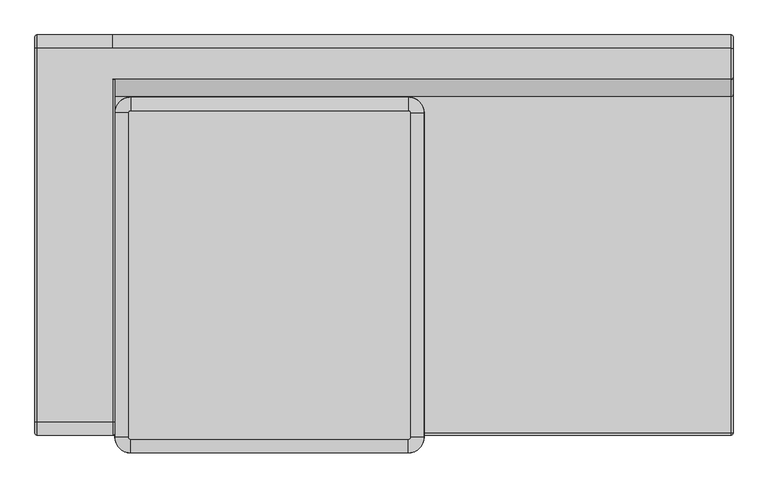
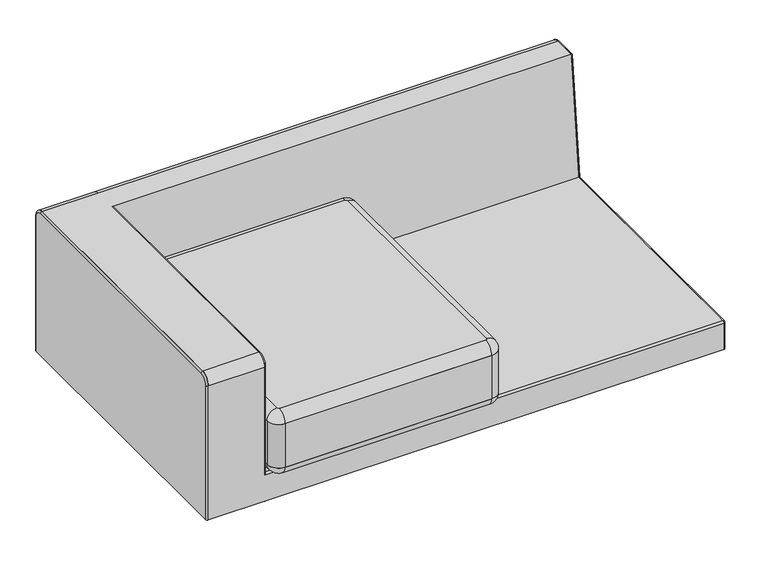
"""IFC4 building model written with IfcOpenShell, lengths in millimetres: furniture geometry, Sofa_Bensen_Neo_NEO25LIT : Sofa_Bensen_Neo_NEO25LIT."""

from ifc_helpers import new_model, si_unit, point, frame, frame_2d, origin, place, context, project, spatial, polyline, circle_curve, ellipse_curve, trimmed, segment, composite_curve, outline, extrude, source, transform, mapped, element, save
from ifc_brep_helpers import plane_surface, cylinder_surface, revolved_surface, advanced_brep


def furniture_0ab977c7(model_context):
    return source(origin(), model_context, "Body", "SolidModel", [
        advanced_brep(
        [(-35.0, -490.001275, 289.4004127), (0.0, -455.001275, 289.4004127), (0.0, 274.998725, 289.4004127), (-35.0, 309.998725, 289.4004127), (-660.0, 309.998725, 289.4004127), (-695.0, 274.998725, 289.4004127), (-695.0, -455.001275, 289.4004127), (-660.0, -490.001275, 289.4004127), (-30.0, -455.001275, 259.4004127), (-35.0, -460.001275, 259.4004127), (-660.0, -460.001275, 259.4004127), (-665.0, -455.001275, 259.4004127), (-665.0, 274.998725, 259.4004127), (-660.0, 279.998725, 259.4004127), (-35.0, 279.998725, 259.4004127), (-30.0, 274.998725, 259.4004127)],
        [
            (0, 1, circle_curve(frame((-35.0, -455.001275, 289.4004127), z_axis=(0.0, 0.0, 1.0), x_axis=(1.0, 0.0, 0.0)), 35.0)),
            (1, 2),
            (2, 3, circle_curve(frame((-35.0, 274.998725, 289.4004127), z_axis=(0.0, 0.0, 1.0), x_axis=(0.0, 1.0, 0.0)), 35.0)),
            (3, 4),
            (4, 5, circle_curve(frame((-660.0, 274.998725, 289.4004127), z_axis=(0.0, 0.0, 1.0), x_axis=(-1.0, 0.0, 0.0)), 35.0)),
            (5, 6),
            (6, 7, circle_curve(frame((-660.0, -455.001275, 289.4004127), z_axis=(0.0, 0.0, 1.0), x_axis=(0.0, -1.0, 0.0)), 35.0)),
            (7, 0),
            (8, 9, circle_curve(frame((-35.0, -455.001275, 259.4004127), z_axis=(0.0, 0.0, -1.0), x_axis=(1.0, 0.0, 0.0)), 5.0)),
            (9, 10),
            (10, 11, circle_curve(frame((-660.0, -455.001275, 259.4004127), z_axis=(0.0, 0.0, -1.0), x_axis=(0.0, -1.0, 0.0)), 5.0)),
            (11, 12),
            (12, 13, circle_curve(frame((-660.0, 274.998725, 259.4004127), z_axis=(0.0, 0.0, -1.0), x_axis=(-1.0, 0.0, 0.0)), 5.0)),
            (13, 14),
            (14, 15, circle_curve(frame((-35.0, 274.998725, 259.4004127), z_axis=(0.0, 0.0, -1.0), x_axis=(0.0, 1.0, 0.0)), 5.0)),
            (15, 8),
            (8, 1, circle_curve(frame((-30.0, -455.001275, 289.4004127), z_axis=(0.0, -1.0, 0.0), x_axis=(1.0, 0.0, 0.0)), 30.0)),
            (0, 9, circle_curve(frame((-35.0, -460.001275, 289.4004127), z_axis=(1.0, 0.0, 0.0), x_axis=(0.0, -1.0, 0.0)), 30.0)),
            (7, 10, circle_curve(frame((-660.0, -460.001275, 289.4004127), z_axis=(1.0, 0.0, 0.0), x_axis=(0.0, -1.0, 0.0)), 30.0)),
            (6, 11, circle_curve(frame((-665.0, -455.001275, 289.4004127), z_axis=(0.0, -1.0, 0.0), x_axis=(-1.0, 0.0, 0.0)), 30.0)),
            (5, 12, circle_curve(frame((-665.0, 274.998725, 289.4004127), z_axis=(0.0, -1.0, 0.0), x_axis=(-1.0, 0.0, 0.0)), 30.0)),
            (4, 13, circle_curve(frame((-660.0, 279.998725, 289.4004127), z_axis=(-1.0, 0.0, 0.0), x_axis=(0.0, 1.0, 0.0)), 30.0)),
            (3, 14, circle_curve(frame((-35.0, 279.998725, 289.4004127), z_axis=(-1.0, 0.0, 0.0), x_axis=(0.0, 1.0, 0.0)), 30.0)),
            (2, 15, circle_curve(frame((-30.0, 274.998725, 289.4004127), z_axis=(0.0, 1.0, 0.0), x_axis=(1.0, 0.0, 0.0)), 30.0)),
        ],
        [
            plane_surface(frame((-35.0, 269.998725, 289.4004127), z_axis=(0.0, 0.0, 1.0), x_axis=(1.0, 0.0, 0.0))),
            plane_surface(frame((-35.0, 269.998725, 259.4004127), z_axis=(0.0, 0.0, -1.0), x_axis=(-1.0, 0.0, 0.0))),
            revolved_surface(trimmed(ellipse_curve(frame((-30.0, -455.001275, 289.4004127), z_axis=(0.0, 1.0, 0.0), x_axis=(1.0, 0.0, 0.0)), 30.0, 30.0), [point((0.0, -455.001275, 289.4004127))], [point((-30.0, -455.001275, 259.4004127))], True, "CARTESIAN"), (-35.0, -455.001275, 289.4004127), (0.0, 0.0, -1.0)),
            cylinder_surface(frame((-35.0, -460.001275, 289.4004127), z_axis=(1.0, 0.0, 0.0), x_axis=(0.0, -1.0, 0.0)), 30.0),
            revolved_surface(trimmed(ellipse_curve(frame((-660.0, -460.001275, 289.4004127), z_axis=(1.0, 0.0, 0.0), x_axis=(0.0, -1.0, 0.0)), 30.0, 30.0), [point((-660.0, -490.001275, 289.4004127))], [point((-660.0, -460.001275, 259.4004127))], True, "CARTESIAN"), (-660.0, -455.001275, 289.4004127), (0.0, 0.0, -1.0)),
            cylinder_surface(frame((-665.0, -455.001275, 289.4004127), z_axis=(0.0, -1.0, 0.0), x_axis=(-1.0, 0.0, 0.0)), 30.0),
            revolved_surface(trimmed(ellipse_curve(frame((-665.0, 274.998725, 289.4004127), z_axis=(0.0, -1.0, 0.0), x_axis=(-1.0, 0.0, 0.0)), 30.0, 30.0), [point((-695.0, 274.998725, 289.4004127))], [point((-665.0, 274.998725, 259.4004127))], True, "CARTESIAN"), (-660.0, 274.998725, 289.4004127), (0.0, 0.0, -1.0)),
            cylinder_surface(frame((-660.0, 279.998725, 289.4004127), z_axis=(-1.0, 0.0, 0.0), x_axis=(0.0, 1.0, 0.0)), 30.0),
            revolved_surface(trimmed(ellipse_curve(frame((-35.0, 279.998725, 289.4004127), z_axis=(-1.0, 0.0, 0.0), x_axis=(0.0, 1.0, 0.0)), 30.0, 30.0), [point((-35.0, 309.998725, 289.4004127))], [point((-35.0, 279.998725, 259.4004127))], True, "CARTESIAN"), (-35.0, 274.998725, 289.4004127), (0.0, 0.0, -1.0)),
            cylinder_surface(frame((-30.0, 274.998725, 289.4004127), z_axis=(0.0, 1.0, 0.0), x_axis=(1.0, 0.0, 0.0)), 30.0),
        ],
        [
            (0, [[1, 2, 3, 4, 5, 6, 7, 8]]),
            (1, [[9, 10, 11, 12, 13, 14, 15, 16]]),
            (2, [[17, -1, 18, -9]]),
            (3, [[-18, -8, 19, -10]]),
            (4, [[-19, -7, 20, -11]]),
            (5, [[-20, -6, 21, -12]]),
            (6, [[-21, -5, 22, -13]]),
            (7, [[-22, -4, 23, -14]]),
            (8, [[-23, -3, 24, -15]]),
            (9, [[-17, -16, -24, -2]]),
        ],
    ),
        advanced_brep(
        [(-35.0, -490.001275, 429.4004127), (0.0, -455.001275, 429.4004127), (-30.0, -455.001275, 459.4004127), (-35.0, -460.001275, 459.4004127), (-660.0, -460.001275, 459.4004127), (-660.0, -490.001275, 429.4004127), (-665.0, -455.001275, 459.4004127), (-695.0, -455.001275, 429.4004127), (-665.0, 274.998725, 459.4004127), (-695.0, 274.998725, 429.4004127), (-660.0, 279.998725, 459.4004127), (-660.0, 309.998725, 429.4004127), (-35.0, 279.998725, 459.4004127), (-35.0, 309.998725, 429.4004127), (-30.0, 274.998725, 459.4004127), (0.0, 274.998725, 429.4004127)],
        [
            (0, 1, circle_curve(frame((-35.0, -455.001275, 429.4004127), z_axis=(0.0, 0.0, 1.0), x_axis=(1.0, 0.0, 0.0)), 35.0)),
            (1, 2, circle_curve(frame((-30.0, -455.001275, 429.4004127), z_axis=(0.0, -1.0, 0.0), x_axis=(1.0, 0.0, 0.0)), 30.0)),
            (2, 3, circle_curve(frame((-35.0, -455.001275, 459.4004127), z_axis=(0.0, 0.0, -1.0), x_axis=(1.0, 0.0, 0.0)), 5.0)),
            (3, 0, circle_curve(frame((-35.0, -460.001275, 429.4004127), z_axis=(1.0, 0.0, 0.0), x_axis=(0.0, -1.0, 0.0)), 30.0)),
            (3, 4),
            (4, 5, circle_curve(frame((-660.0, -460.001275, 429.4004127), z_axis=(1.0, 0.0, 0.0), x_axis=(0.0, -1.0, 0.0)), 30.0)),
            (5, 0),
            (4, 6, circle_curve(frame((-660.0, -455.001275, 459.4004127), z_axis=(0.0, 0.0, -1.0), x_axis=(0.0, -1.0, 0.0)), 5.0)),
            (6, 7, circle_curve(frame((-665.0, -455.001275, 429.4004127), z_axis=(0.0, -1.0, 0.0), x_axis=(-1.0, 0.0, 0.0)), 30.0)),
            (7, 5, circle_curve(frame((-660.0, -455.001275, 429.4004127), z_axis=(0.0, 0.0, 1.0), x_axis=(0.0, -1.0, 0.0)), 35.0)),
            (6, 8),
            (8, 9, circle_curve(frame((-665.0, 274.998725, 429.4004127), z_axis=(0.0, -1.0, 0.0), x_axis=(-1.0, 0.0, 0.0)), 30.0)),
            (9, 7),
            (8, 10, circle_curve(frame((-660.0, 274.998725, 459.4004127), z_axis=(0.0, 0.0, -1.0), x_axis=(-1.0, 0.0, 0.0)), 5.0)),
            (10, 11, circle_curve(frame((-660.0, 279.998725, 429.4004127), z_axis=(-1.0, 0.0, 0.0), x_axis=(0.0, 1.0, 0.0)), 30.0)),
            (11, 9, circle_curve(frame((-660.0, 274.998725, 429.4004127), z_axis=(0.0, 0.0, 1.0), x_axis=(-1.0, 0.0, 0.0)), 35.0)),
            (10, 12),
            (12, 13, circle_curve(frame((-35.0, 279.998725, 429.4004127), z_axis=(-1.0, 0.0, 0.0), x_axis=(0.0, 1.0, 0.0)), 30.0)),
            (13, 11),
            (12, 14, circle_curve(frame((-35.0, 274.998725, 459.4004127), z_axis=(0.0, 0.0, -1.0), x_axis=(0.0, 1.0, 0.0)), 5.0)),
            (14, 15, circle_curve(frame((-30.0, 274.998725, 429.4004127), z_axis=(0.0, 1.0, 0.0), x_axis=(1.0, 0.0, 0.0)), 30.0)),
            (15, 13, circle_curve(frame((-35.0, 274.998725, 429.4004127), z_axis=(0.0, 0.0, 1.0), x_axis=(0.0, 1.0, 0.0)), 35.0)),
            (1, 15),
            (14, 2),
        ],
        [
            revolved_surface(trimmed(ellipse_curve(frame((-30.0, -455.001275, 429.4004127), z_axis=(0.0, 1.0, 0.0), x_axis=(1.0, 0.0, 0.0)), 30.0, 30.0), [point((-30.0, -455.001275, 459.4004127))], [point((0.0, -455.001275, 429.4004127))], True, "CARTESIAN"), (-35.0, -455.001275, 259.4004127), (0.0, 0.0, -1.0)),
            cylinder_surface(frame((-35.0, -460.001275, 429.4004127), z_axis=(1.0, 0.0, 0.0), x_axis=(0.0, -1.0, 0.0)), 30.0),
            revolved_surface(trimmed(ellipse_curve(frame((-660.0, -460.001275, 429.4004127), z_axis=(1.0, 0.0, 0.0), x_axis=(0.0, -1.0, 0.0)), 30.0, 30.0), [point((-660.0, -460.001275, 459.4004127))], [point((-660.0, -490.001275, 429.4004127))], True, "CARTESIAN"), (-660.0, -455.001275, 259.4004127), (0.0, 0.0, -1.0)),
            cylinder_surface(frame((-665.0, -455.001275, 429.4004127), z_axis=(0.0, -1.0, 0.0), x_axis=(-1.0, 0.0, 0.0)), 30.0),
            revolved_surface(trimmed(ellipse_curve(frame((-665.0, 274.998725, 429.4004127), z_axis=(0.0, -1.0, 0.0), x_axis=(-1.0, 0.0, 0.0)), 30.0, 30.0), [point((-665.0, 274.998725, 459.4004127))], [point((-695.0, 274.998725, 429.4004127))], True, "CARTESIAN"), (-660.0, 274.998725, 259.4004127), (0.0, 0.0, -1.0)),
            cylinder_surface(frame((-660.0, 279.998725, 429.4004127), z_axis=(-1.0, 0.0, 0.0), x_axis=(0.0, 1.0, 0.0)), 30.0),
            revolved_surface(trimmed(ellipse_curve(frame((-35.0, 279.998725, 429.4004127), z_axis=(-1.0, 0.0, 0.0), x_axis=(0.0, 1.0, 0.0)), 30.0, 30.0), [point((-35.0, 279.998725, 459.4004127))], [point((-35.0, 309.998725, 429.4004127))], True, "CARTESIAN"), (-35.0, 274.998725, 259.4004127), (0.0, 0.0, -1.0)),
            cylinder_surface(frame((-30.0, 274.998725, 429.4004127), z_axis=(0.0, 1.0, 0.0), x_axis=(1.0, 0.0, 0.0)), 30.0),
            plane_surface(frame((0.0, 274.998725, 429.4004127), z_axis=(0.0, 0.0, -1.0), x_axis=(0.0, -1.0, 0.0))),
            plane_surface(frame((-35.0, 269.998725, 459.4004127), z_axis=(0.0, 0.0, 1.0), x_axis=(1.0, 0.0, 0.0))),
        ],
        [
            (0, [[1, 2, 3, 4]]),
            (1, [[-4, 5, 6, 7]]),
            (2, [[-6, 8, 9, 10]]),
            (3, [[-9, 11, 12, 13]]),
            (4, [[-12, 14, 15, 16]]),
            (5, [[-15, 17, 18, 19]]),
            (6, [[-18, 20, 21, 22]]),
            (7, [[-2, 23, -21, 24]]),
            (8, [[-1, -7, -10, -13, -16, -19, -22, -23]]),
            (9, [[-3, -24, -20, -17, -14, -11, -8, -5]]),
        ],
    ),
        extrude(outline(composite_curve([segment(polyline([(0.0, 274.998725), (0.0, -455.001275)]), True, "CONTINUOUS"), segment(trimmed(circle_curve(frame_2d((-35.0, -455.001275)), 35.0), [point((0.0, -455.001275))], [point((-35.0, -490.001275))], False, "CARTESIAN"), True, "CONTINUOUS"), segment(polyline([(-35.0, -490.001275), (-660.0, -490.001275)]), True, "CONTINUOUS"), segment(trimmed(circle_curve(frame_2d((-660.0, -455.001275)), 35.0), [point((-660.0, -490.001275))], [point((-695.0, -455.001275))], False, "CARTESIAN"), True, "CONTINUOUS"), segment(polyline([(-695.0, -455.001275), (-695.0, 274.998725)]), True, "CONTINUOUS"), segment(trimmed(circle_curve(frame_2d((-660.0, 274.998725)), 35.0), [point((-695.0, 274.998725))], [point((-660.0, 309.998725))], False, "CARTESIAN"), True, "CONTINUOUS"), segment(polyline([(-660.0, 309.998725), (-35.0, 309.998725)]), True, "CONTINUOUS"), segment(trimmed(circle_curve(frame_2d((-35.0, 274.998725)), 35.0), [point((-35.0, 309.998725))], [point((0.0, 274.998725))], False, "CARTESIAN"), True, "CONTINUOUS")], self_intersect=False)), frame((0.0, 0.0, 289.4004127), z_axis=(0.0, 0.0, 1.0), x_axis=(1.0, 0.0, 0.0)), (0.0, 0.0, 1.0), 140.0),
        advanced_brep(
        [(690.0, 449.998725, 169.9987249), (690.0, 449.998725, 599.5427565), (690.0, 419.998725, 629.5427565), (690.0, 349.998725, 629.5427565), (690.0, 311.095197, 259.4004127), (690.0, -443.9987249, 259.4004127), (690.0, -449.9987249, 253.4004127), (690.0, -449.9987249, 170.0), (-699.9999999, 419.998725, 629.5427565), (-869.9999999, 419.998725, 629.5427565), (-869.9999999, -419.9987249, 629.5427565), (-699.9999999, -419.9987249, 629.5427565), (-699.9999999, 349.998725, 629.5427565), (-869.9999999, 449.998725, 170.0), (-869.9999999, 449.998725, 599.5427565), (-699.9999999, 449.998725, 599.5427565), (-869.9999999, -449.9987249, 169.9987249), (-699.9999999, 311.095197, 259.4004127), (-699.9999999, -449.9987249, 253.4004127), (-699.9999999, -449.9987249, 599.5427565), (-869.9999999, -449.9987249, 599.5427565), (-699.9999999, -443.9987249, 259.4004127)],
        [
            (0, 1),
            (1, 2, circle_curve(frame((690.0, 419.998725, 599.5427565), z_axis=(1.0, 0.0, 0.0), x_axis=(0.0, -1.0, 0.0)), 30.0)),
            (2, 3),
            (3, 4),
            (4, 5),
            (5, 6, circle_curve(frame((690.0, -443.9987249, 253.4004127), z_axis=(1.0, 0.0, 0.0), x_axis=(0.0, 0.0, 1.0)), 6.0)),
            (6, 7),
            (7, 0),
            (2, 8),
            (8, 9),
            (9, 10),
            (10, 11),
            (11, 12),
            (12, 3),
            (0, 13),
            (13, 14),
            (14, 15),
            (15, 1),
            (7, 16),
            (16, 13),
            (12, 17),
            (17, 4),
            (15, 8, circle_curve(frame((-699.9999999, 419.998725, 599.5427565), z_axis=(1.0, 0.0, 0.0), x_axis=(0.0, -1.0, 0.0)), 30.0)),
            (6, 18),
            (18, 19),
            (19, 20),
            (20, 16),
            (17, 21),
            (21, 5),
            (21, 18, circle_curve(frame((-699.9999999, -443.9987249, 253.4004127), z_axis=(1.0, 0.0, 0.0), x_axis=(0.0, 0.0, 1.0)), 6.0)),
            (11, 19, circle_curve(frame((-699.9999999, -419.9987249, 599.5427565), z_axis=(1.0, 0.0, 0.0), x_axis=(0.0, -1.0, 0.0)), 30.0)),
            (9, 14, circle_curve(frame((-869.9999999, 419.998725, 599.5427565), z_axis=(-1.0, 0.0, 0.0), x_axis=(0.0, -1.0, 0.0)), 30.0)),
            (20, 10, circle_curve(frame((-869.9999999, -419.9987249, 599.5427565), z_axis=(-1.0, 0.0, 0.0), x_axis=(0.0, -1.0, 0.0)), 30.0)),
        ],
        [
            plane_surface(frame((690.0, 449.998725, 629.5427565), z_axis=(1.0, 0.0, 0.0), x_axis=(0.0, -1.0, 0.0))),
            plane_surface(frame((-699.9999999, 349.998725, 629.5427565), z_axis=(0.0, 0.0, 1.0), x_axis=(1.0, 0.0, 0.0))),
            plane_surface(frame((-699.9999999, 449.998725, 599.5427565), z_axis=(0.0, 1.0, 0.0), x_axis=(1.0, 0.0, 0.0))),
            plane_surface(frame((-699.9999999, 449.998725, 169.9987249), z_axis=(0.0, 0.0, -1.0), x_axis=(1.0, 0.0, 0.0))),
            plane_surface(frame((-699.9999999, 301.698701, 169.9987249), z_axis=(0.0, -0.9945218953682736, 0.10452846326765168), x_axis=(1.0, 0.0, 0.0))),
            cylinder_surface(frame((690.0, 419.998725, 599.5427565), z_axis=(-1.0, 0.0, 0.0), x_axis=(0.0, -1.0, 0.0)), 30.0),
            plane_surface(frame((690.0, -449.9987249, 253.4004127), z_axis=(0.0, -1.0, 0.0), x_axis=(-1.0, 0.0, 0.0))),
            plane_surface(frame((690.0, 311.095197, 259.4004127), z_axis=(0.0, 0.0, 1.0), x_axis=(-1.0, 0.0, 0.0))),
            cylinder_surface(frame((-699.9999999, -443.9987249, 253.4004127), z_axis=(1.0, 0.0, 0.0), x_axis=(0.0, 0.0, 1.0)), 6.0),
            plane_surface(frame((-699.9999999, -449.9987249, 599.5427565), z_axis=(1.0, 0.0, 0.0), x_axis=(0.0, 0.0, -1.0))),
            plane_surface(frame((-869.9999999, -449.9987249, 599.5427565), z_axis=(-1.0, 0.0, 0.0), x_axis=(0.0, 0.0, 1.0))),
            cylinder_surface(frame((-869.9999999, -419.9987249, 599.5427565), z_axis=(1.0, 0.0, 0.0), x_axis=(0.0, -1.0, 0.0)), 30.0),
            cylinder_surface(frame((-869.9999999, 419.998725, 599.5427565), z_axis=(1.0, 0.0, 0.0), x_axis=(0.0, -1.0, 0.0)), 30.0),
        ],
        [
            (0, [[1, 2, 3, 4, 5, 6, 7, 8]]),
            (1, [[-3, 9, 10, 11, 12, 13, 14]]),
            (2, [[-1, 15, 16, 17, 18]]),
            (3, [[-15, -8, 19, 20]]),
            (4, [[-14, 21, 22, -4]]),
            (5, [[-2, -18, 23, -9]]),
            (6, [[-19, -7, 24, 25, 26, 27]]),
            (7, [[-5, -22, 28, 29]]),
            (8, [[-6, -29, 30, -24]]),
            (9, [[31, -25, -30, -28, -21, -13]]),
            (10, [[-11, 32, -16, -20, -27, 33]]),
            (11, [[-31, -12, -33, -26]]),
            (12, [[-32, -10, -23, -17]]),
        ],
    ),
        advanced_brep(
        [(-874.9999999, 444.998725, 170.0), (-869.9999999, 449.998725, 170.0), (-869.9999999, -449.9987249, 170.0), (-874.9999999, -444.9987249, 170.0), (-869.9999999, 419.998725, 629.5427565), (-874.9999999, 419.998725, 624.5427565), (-874.9999999, -419.9987249, 624.5427565), (-869.9999999, -419.9987249, 629.5427565), (-874.9999999, -444.9987249, 599.5427565), (-869.9999999, -449.9987249, 599.5427565), (-874.9999999, 444.998725, 599.5427565), (-869.9999999, 449.998725, 599.5427565)],
        [
            (0, 1, circle_curve(frame((-869.9999999, 444.998725, 170.0), z_axis=(0.0, 0.0, -1.0), x_axis=(1.0, 0.0, 0.0)), 5.0)),
            (1, 2),
            (2, 3, circle_curve(frame((-869.9999999, -444.9987249, 170.0), z_axis=(0.0, 0.0, -1.0), x_axis=(1.0, 0.0, 0.0)), 5.0)),
            (3, 0),
            (4, 5, circle_curve(frame((-869.9999999, 419.998725, 624.5427565), z_axis=(0.0, -1.0, 0.0), x_axis=(1.0, 0.0, 0.0)), 5.0)),
            (5, 6),
            (6, 7, circle_curve(frame((-869.9999999, -419.9987249, 624.5427565), z_axis=(0.0, 1.0, 0.0), x_axis=(1.0, 0.0, 0.0)), 5.0)),
            (7, 4),
            (6, 8, circle_curve(frame((-874.9999999, -419.9987249, 599.5427565), z_axis=(1.0, 0.0, 0.0), x_axis=(0.0, 0.0, 1.0)), 25.0)),
            (8, 9, circle_curve(frame((-869.9999999, -444.9987249, 599.5427565), z_axis=(0.0, 0.0, 1.0), x_axis=(1.0, 0.0, 0.0)), 5.0)),
            (9, 7, circle_curve(frame((-869.9999999, -419.9987249, 599.5427565), z_axis=(-1.0, 0.0, 0.0), x_axis=(0.0, 0.0, 1.0)), 30.0)),
            (8, 3),
            (2, 9),
            (0, 10),
            (10, 11, circle_curve(frame((-869.9999999, 444.998725, 599.5427565), z_axis=(0.0, 0.0, -1.0), x_axis=(1.0, 0.0, 0.0)), 5.0)),
            (11, 1),
            (11, 4, circle_curve(frame((-869.9999999, 419.998725, 599.5427565), z_axis=(1.0, 0.0, 0.0), x_axis=(0.0, 1.0, 0.0)), 30.0)),
            (10, 5, circle_curve(frame((-874.9999999, 419.998725, 599.5427565), z_axis=(1.0, 0.0, 0.0), x_axis=(0.0, 1.0, 0.0)), 25.0)),
        ],
        [
            plane_surface(frame((-389.9999999, 449.998725, 170.0), z_axis=(0.0, 0.0, -1.0), x_axis=(1.0, 0.0, 0.0))),
            cylinder_surface(frame((-869.9999999, 419.998725, 624.5427565), z_axis=(0.0, 1.0, 0.0), x_axis=(1.0, 0.0, 0.0)), 5.0),
            revolved_surface(trimmed(ellipse_curve(frame((-869.9999999, -419.9987249, 624.5427565), z_axis=(0.0, 1.0, 0.0), x_axis=(1.0, 0.0, 0.0)), 5.0, 5.0), [point((-874.9999999, -419.9987249, 624.5427565))], [point((-869.9999999, -419.9987249, 629.5427565))], True, "CARTESIAN"), (-389.9999999, -419.9987249, 599.5427565), (1.0, 0.0, 0.0)),
            cylinder_surface(frame((-869.9999999, -444.9987249, 599.5427565), z_axis=(0.0, 0.0, 1.0), x_axis=(1.0, 0.0, 0.0)), 5.0),
            cylinder_surface(frame((-869.9999999, 444.998725, 170.0), z_axis=(0.0, 0.0, -1.0), x_axis=(1.0, 0.0, 0.0)), 5.0),
            plane_surface(frame((-869.9999999, 449.998725, 170.0), z_axis=(1.0, 0.0, 0.0), x_axis=(0.0, 0.0, 1.0))),
            revolved_surface(trimmed(ellipse_curve(frame((-869.9999999, 444.998725, 599.5427565), z_axis=(0.0, 0.0, -1.0), x_axis=(1.0, 0.0, 0.0)), 5.0, 5.0), [point((-874.9999999, 444.998725, 599.5427565))], [point((-869.9999999, 449.998725, 599.5427565))], True, "CARTESIAN"), (-389.9999999, 419.998725, 599.5427565), (1.0, 0.0, 0.0)),
            plane_surface(frame((-874.9999999, -419.9987249, 624.5427565), z_axis=(-1.0, 0.0, 0.0), x_axis=(0.0, 1.0, 0.0))),
        ],
        [
            (0, [[1, 2, 3, 4]]),
            (1, [[5, 6, 7, 8]]),
            (2, [[-7, 9, 10, 11]]),
            (3, [[-10, 12, -3, 13]]),
            (4, [[-1, 14, 15, 16]]),
            (5, [[-2, -16, 17, -8, -11, -13]]),
            (6, [[-5, -17, -15, 18]]),
            (7, [[-4, -12, -9, -6, -18, -14]]),
        ],
    ),
        advanced_brep(
        [(-699.9999999, 349.998725, 259.4004127), (-699.9999999, -444.9987249, 259.4004127), (-699.9999999, -444.9987249, 170.0), (-699.9999999, -449.9987249, 170.0), (-699.9999999, -449.9987249, 599.5427565), (-699.9999999, -419.9987249, 629.5427565), (-699.9999999, 349.998725, 629.5427565), (-695.0, -444.9987249, 259.4004127), (-695.0, 349.998725, 259.4004127), (-695.0, 349.998725, 624.5427565), (-695.0, -419.9987249, 624.5427565), (-695.0, -444.9987249, 599.5427565), (-694.9999999, -444.9987249, 170.0)],
        [
            (0, 1),
            (1, 2),
            (2, 3),
            (3, 4),
            (4, 5, circle_curve(frame((-699.9999999, -419.9987249, 599.5427565), z_axis=(-1.0, 0.0, 0.0), x_axis=(0.0, 0.0, 1.0)), 30.0)),
            (5, 6),
            (6, 0),
            (7, 8),
            (8, 9),
            (9, 10),
            (10, 11, circle_curve(frame((-695.0, -419.9987249, 599.5427565), z_axis=(1.0, 0.0, 0.0), x_axis=(0.0, 0.0, 1.0)), 25.0)),
            (11, 7),
            (0, 8),
            (7, 1),
            (6, 9, circle_curve(frame((-699.9999999, 349.998725, 624.5427565), z_axis=(0.0, 1.0, 0.0), x_axis=(0.0, 0.0, 1.0)), 5.0)),
            (5, 10, circle_curve(frame((-699.9999999, -419.9987249, 624.5427565), z_axis=(0.0, 1.0, 0.0), x_axis=(0.0, 0.0, 1.0)), 5.0)),
            (4, 11, circle_curve(frame((-699.9999999, -444.9987249, 599.5427565), z_axis=(0.0, 0.0, 1.0), x_axis=(0.0, -1.0, 0.0)), 5.0)),
            (2, 12),
            (12, 3, circle_curve(frame((-699.9999999, -444.9987249, 170.0), z_axis=(0.0, 0.0, -1.0), x_axis=(0.0, -1.0, 0.0)), 5.0)),
            (7, 12),
        ],
        [
            plane_surface(frame((-699.9999999, 349.998725, 624.5427565), z_axis=(-1.0, 0.0, 0.0), x_axis=(0.0, 1.0, 0.0))),
            plane_surface(frame((-695.0, 349.998725, 624.5427565), z_axis=(1.0, 0.0, 0.0), x_axis=(0.0, -1.0, 0.0))),
            plane_surface(frame((-699.9999999, 349.998725, 259.4004127), z_axis=(0.0, 0.0, -1.0), x_axis=(1.0, 0.0, 0.0))),
            plane_surface(frame((-699.9999999, 349.998725, 624.5427565), z_axis=(0.0, 1.0, 0.0), x_axis=(1.0, 0.0, 0.0))),
            cylinder_surface(frame((-699.9999999, 349.998725, 624.5427565), z_axis=(0.0, 1.0, 0.0), x_axis=(0.0, 0.0, 1.0)), 5.0),
            revolved_surface(trimmed(ellipse_curve(frame((-699.9999999, -419.9987249, 624.5427565), z_axis=(0.0, 1.0, 0.0), x_axis=(0.0, 0.0, 1.0)), 5.0, 5.0), [point((-699.9999999, -419.9987249, 629.5427565))], [point((-694.9999999, -419.9987249, 624.5427565))], True, "CARTESIAN"), (-389.9999999, -419.9987249, 599.5427565), (1.0, 0.0, 0.0)),
            plane_surface(frame((-389.9999999, -449.9987249, 170.0), z_axis=(0.0, 0.0, -1.0), x_axis=(-1.0, 0.0, 0.0))),
            plane_surface(frame((-694.9999999, -444.9987249, 599.5427565), z_axis=(0.0, 1.0, 0.0), x_axis=(0.0, 0.0, -1.0))),
            cylinder_surface(frame((-699.9999999, -444.9987249, 599.5427565), z_axis=(0.0, 0.0, 1.0), x_axis=(0.0, -1.0, 0.0)), 5.0),
        ],
        [
            (0, [[1, 2, 3, 4, 5, 6, 7]]),
            (1, [[8, 9, 10, 11, 12]]),
            (2, [[-1, 13, -8, 14]]),
            (3, [[-7, 15, -9, -13]]),
            (4, [[-15, -6, 16, -10]]),
            (5, [[-16, -5, 17, -11]]),
            (6, [[-3, 18, 19]]),
            (7, [[-18, -2, -14, 20]]),
            (8, [[-4, -19, -20, -12, -17]]),
        ],
    ),
        advanced_brep(
        [(695.0, -444.9987249, 170.0), (695.0, 444.998725, 170.0), (695.0, 444.998725, 599.5427565), (695.0, 419.9987243, 624.5427565), (695.0, 354.5007452, 624.5427565), (695.0, 315.5972172, 254.4004127), (695.0, -443.9987249, 254.4004127), (695.0, -444.9987249, 253.4004127), (690.0, -449.9987249, 170.0), (690.0, -449.9987249, 253.4004127), (690.0, -443.9987249, 259.4004127), (690.0, 311.095197, 259.4004127), (690.0, 349.998725, 629.5427565), (690.0, 419.998725, 629.5427565), (690.0, 449.998725, 599.5427565), (690.0, 449.998725, 170.0)],
        [
            (0, 1),
            (1, 2),
            (2, 3, circle_curve(frame((695.0, 419.998725, 599.5427565), z_axis=(1.0, 0.0, 0.0), x_axis=(0.0, 1.0, 0.0)), 25.0)),
            (3, 4),
            (4, 5),
            (5, 6),
            (6, 7, circle_curve(frame((695.0, -443.9987249, 253.4004127), z_axis=(1.0, 0.0, 0.0), x_axis=(0.0, 0.0, 1.0)), 1.0)),
            (7, 0),
            (8, 9),
            (9, 10, circle_curve(frame((690.0, -443.9987249, 253.4004127), z_axis=(-1.0, 0.0, 0.0), x_axis=(0.0, 0.0, 1.0)), 6.0)),
            (10, 11),
            (11, 12),
            (12, 13),
            (13, 14, circle_curve(frame((690.0, 419.998725, 599.5427565), z_axis=(-1.0, 0.0, 0.0), x_axis=(0.0, 1.0, 0.0)), 30.0)),
            (14, 15),
            (15, 8),
            (0, 8, circle_curve(frame((690.0, -444.9987249, 170.0), z_axis=(0.0, 0.0, -1.0), x_axis=(1.0, 0.0, 0.0)), 5.0)),
            (15, 1, circle_curve(frame((690.0, 444.998725, 170.0), z_axis=(0.0, 0.0, -1.0), x_axis=(1.0, 0.0, 0.0)), 5.0)),
            (4, 12, ellipse_curve(frame((690.0, 354.5007452, 624.5427565), z_axis=(0.0, -0.7431448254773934, -0.6691306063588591), x_axis=(0.0, -0.669130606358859, 0.7431448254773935)), 6.7281636, 5.0)),
            (11, 5, ellipse_curve(frame((690.0, 315.5972172, 254.4004127), z_axis=(0.0, 0.7431448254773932, 0.6691306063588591), x_axis=(0.0, -0.669130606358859, 0.7431448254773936)), 6.7281636, 5.0)),
            (10, 6, circle_curve(frame((690.0, -443.9987249, 254.4004127), z_axis=(0.0, 1.0, 0.0), x_axis=(1.0, 0.0, 0.0)), 5.0)),
            (7, 9, circle_curve(frame((690.0, -444.9987249, 253.4004127), z_axis=(0.0, 0.0, -1.0), x_axis=(1.0, 0.0, 0.0)), 5.0)),
            (14, 2, circle_curve(frame((690.0, 444.998725, 599.5427565), z_axis=(0.0, 0.0, -1.0), x_axis=(1.0, 0.0, 0.0)), 5.0)),
            (13, 3, circle_curve(frame((690.0, 419.998725, 624.5427565), z_axis=(0.0, 1.0, 0.0), x_axis=(1.0, 0.0, 0.0)), 5.0)),
        ],
        [
            plane_surface(frame((695.0, 354.5007452, 624.5427565), z_axis=(1.0, 0.0, 0.0), x_axis=(0.0, -1.0, 0.0))),
            plane_surface(frame((690.0, 354.5007452, 624.5427565), z_axis=(-1.0, 0.0, 0.0), x_axis=(0.0, 1.0, 0.0))),
            plane_surface(frame((695.0, -444.9987249, 170.0), z_axis=(0.0, 0.0, -1.0), x_axis=(-1.0, 0.0, 0.0))),
            cylinder_surface(frame((690.0, 354.9713345, 629.0201142), z_axis=(0.0, 0.10452846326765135, 0.9945218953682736), x_axis=(1.0, 0.0, 0.0)), 5.0),
            cylinder_surface(frame((690.0, 311.095197, 254.4004127), z_axis=(0.0, 1.0, 0.0), x_axis=(1.0, 0.0, 0.0)), 5.0),
            cylinder_surface(frame((690.0, -444.9987249, 253.4004127), z_axis=(0.0, 0.0, 1.0), x_axis=(1.0, 0.0, 0.0)), 5.0),
            cylinder_surface(frame((690.0, 444.998725, 170.0), z_axis=(0.0, 0.0, -1.0), x_axis=(1.0, 0.0, 0.0)), 5.0),
            revolved_surface(trimmed(ellipse_curve(frame((690.0, 444.998725, 599.5427565), z_axis=(0.0, 0.0, -1.0), x_axis=(1.0, 0.0, 0.0)), 5.0, 5.0), [point((690.0, 449.998725, 599.5427565))], [point((695.0, 444.998725, 599.5427565))], True, "CARTESIAN"), (695.0000001, 419.998725, 599.5427565), (1.0, 0.0, 0.0)),
            cylinder_surface(frame((690.0, 419.998725, 624.5427565), z_axis=(0.0, 1.0, 0.0), x_axis=(1.0, 0.0, 0.0)), 5.0),
            revolved_surface(trimmed(ellipse_curve(frame((690.0, -443.9987249, 254.4004127), z_axis=(0.0, 1.0, 0.0), x_axis=(1.0, 0.0, 0.0)), 5.0, 5.0), [point((690.0, -443.9987249, 259.4004127))], [point((695.0, -443.9987249, 254.4004127))], True, "CARTESIAN"), (695.0000001, -443.9987249, 253.4004127), (1.0, 0.0, 0.0)),
        ],
        [
            (0, [[1, 2, 3, 4, 5, 6, 7, 8]]),
            (1, [[9, 10, 11, 12, 13, 14, 15, 16]]),
            (2, [[-1, 17, -16, 18]]),
            (3, [[19, -12, 20, -5]]),
            (4, [[-20, -11, 21, -6]]),
            (5, [[22, -9, -17, -8]]),
            (6, [[-18, -15, 23, -2]]),
            (7, [[-14, 24, -3, -23]]),
            (8, [[-19, -4, -24, -13]]),
            (9, [[-21, -10, -22, -7]]),
        ],
    ),
    ])


if __name__ == "__main__":
    model = new_model("IFC4")
    model_context = context("Model", 3, world=origin())
    ifc_project = project(units=[si_unit("LENGTHUNIT", "METRE", prefix="MILLI")], contexts=[model_context])
    site = spatial("IfcSite", under=ifc_project)
    building = spatial("IfcBuilding", under=site)
    placement = place(None, origin())
    furniture_shape = furniture_0ab977c7(model_context)
    element("IfcFurniture", 1, ObjectType="Sofa_Bensen_Neo_NEO25LIT : Sofa_Bensen_Neo_NEO25LIT", at=placement, inside=building, context=model_context, shape_type="MappedRepresentation", body=[
        mapped(furniture_shape, transform((0.0, 0.0, 0.0), x_axis=(1.0, 0.0, 0.0), y_axis=(0.0, 1.0, 0.0), z_axis=(0.0, 0.0, 1.0))),
    ])
    save(model, "model.ifc")
